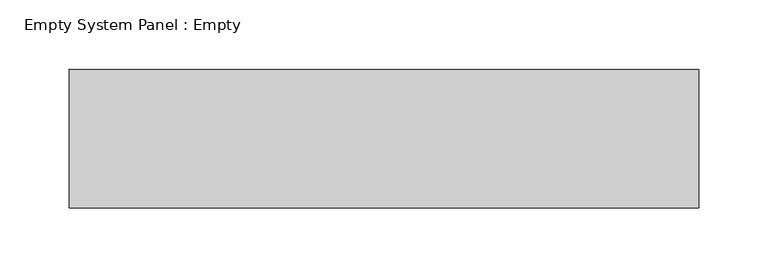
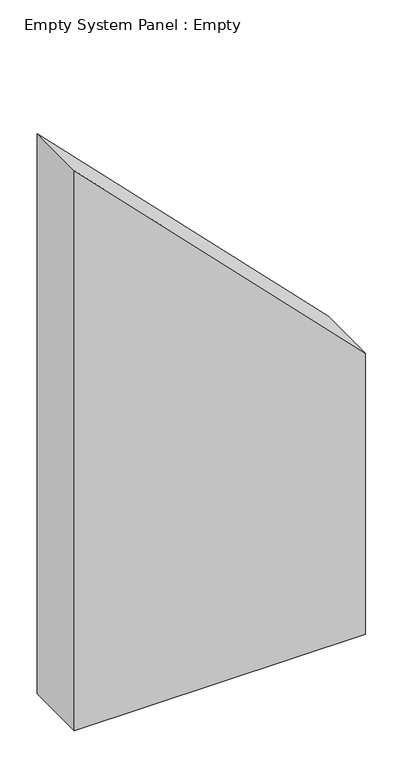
"""IFC4 building model written with IfcOpenShell, lengths in millimetres: plate geometry, Empty System Panel : Empty."""

from ifc_helpers import new_model, si_unit, frame, origin, place, context, project, spatial, polyline, outline, extrude, source, transform, mapped, element, save


def empty_system_panel_empty_2196ef54(model_context):
    return source(origin(), model_context, "Body", "SweptSolid", [
        extrude(outline(polyline([(0.0, -226.4404253), (0.0, 226.4404253), (461.732814, 226.4404253), (919.6802333, -226.4404253), (0.0, -226.4404253)])), frame((0.0, -50.0, 0.0), z_axis=(0.0, 1.0, 0.0), x_axis=(0.0, 0.0, 1.0)), (0.0, 0.0, 1.0), 100.0),
    ])


if __name__ == "__main__":
    model = new_model("IFC4")
    model_context = context("Model", 3, world=origin())
    ifc_project = project(units=[si_unit("LENGTHUNIT", "METRE", prefix="MILLI")], contexts=[model_context])
    site = spatial("IfcSite", under=ifc_project)
    building = spatial("IfcBuilding", under=site)
    placement = place(None, origin())
    empty_system_panel_empty_shape = empty_system_panel_empty_2196ef54(model_context)
    element("IfcPlate", 1, ObjectType="Empty System Panel : Empty", at=placement, inside=building, context=model_context, shape_type="MappedRepresentation", body=[
        mapped(empty_system_panel_empty_shape, transform((0.0, 0.0, 0.0), x_axis=(1.0, 0.0, 0.0), y_axis=(0.0, 1.0, 0.0), z_axis=(0.0, 0.0, 1.0))),
    ])
    save(model, "model.ifc")
